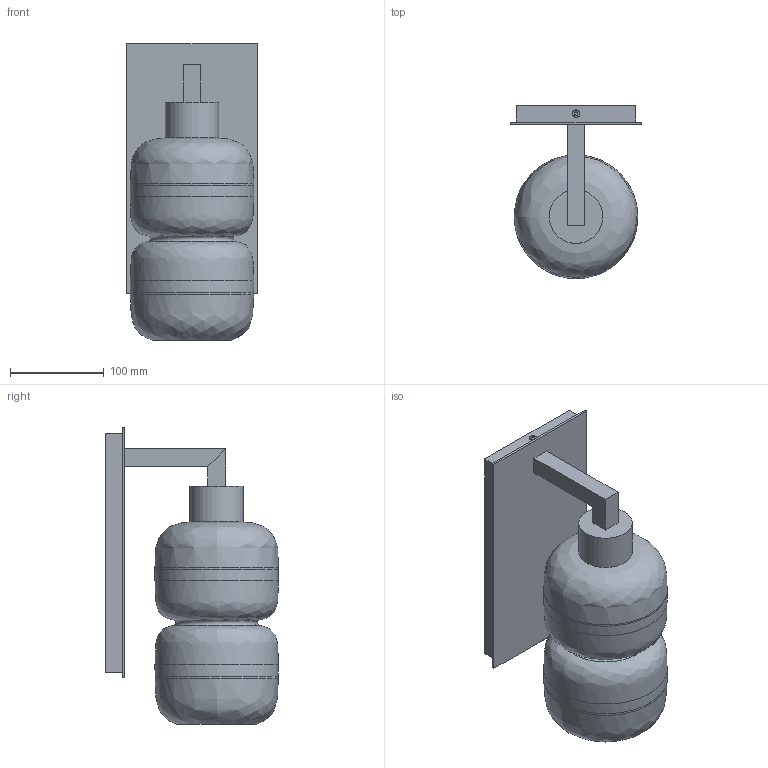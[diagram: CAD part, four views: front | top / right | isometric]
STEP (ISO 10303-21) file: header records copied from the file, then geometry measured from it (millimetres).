
FILE_DESCRIPTION(/* description */ (''),/* implementation_level */ '2;1');
FILE_NAME(/* name */ 'C:/Users/zach/Niche/Product Development - Documents/CAD Models/Sconces/Elongated/Pinch Petite - Sconce/Niche - Pinch Petite - Sconce.step',/* time_stamp */ '2022-08-15T11:23:31-04:00',/* author */ (''),/* organization */ (''),/* preprocessor_version */ 'ST-DEVELOPER v19',/* originating_system */ 'Autodesk Translation Framework v11.7.0.108',/* authorisation */ '');
FILE_SCHEMA (('AUTOMOTIVE_DESIGN { 1 0 10303 214 3 1 1 }'));
Length unit declared in the file: inch
Products named in the file (10): Elongated Sconce - Pinch Petite; Back Plate; Knurled Shade Ring; Screw Top; Sconce; Socket Cover; Screw Bottom; Socket - E26; T9-Bulb; E26 Base
Assembly tree (9 placements, depth 2):
  Elongated Sconce - Pinch Petite
    Back Plate
    Knurled Shade Ring
    Screw Top
    Sconce
    Socket Cover
    Screw Bottom
    Socket - E26
    T9-Bulb
    E26 Base
Bounding box: 139.7 x 184.51 x 315.96 mm (x, y, z)
Volume: 597630.8 mm3; surface area: 574972.6 mm2
Topology: 10 solids, 10 shells, 281 faces, 703 edges, 449 vertices
Faces by surface type: plane 131, cylinder 78, bspline 54, cone 15, torus 2, sphere 1
Full cylindrical faces by diameter (mm): 3.325 x6, 3.893 x2, 4.097 x11, 5.08 x1, 7.62 x2, 24.13 x1, 25.4 x1, 29.21 x9, 31.171 x4, 31.542 x8, 33.337 x3, 44.45 x1, 54.61 x1, 57.15 x1, 59.182 x1
Entity records: 19598 total; most frequent: CARTESIAN_POINT 13042, ORIENTED_EDGE 1400, DIRECTION 1087, EDGE_CURVE 700, VERTEX_POINT 449, LINE 389, VECTOR 389, AXIS2_PLACEMENT_3D 349
